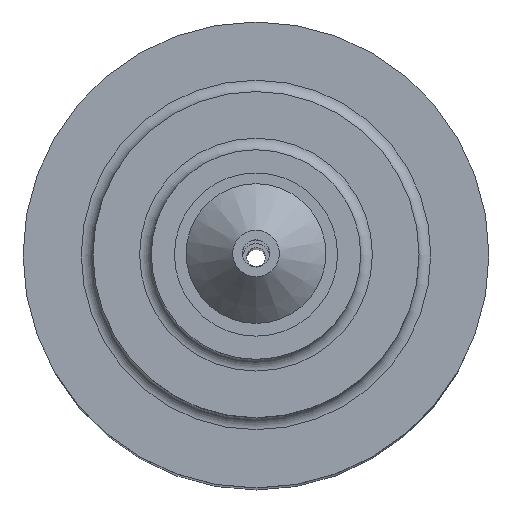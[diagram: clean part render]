
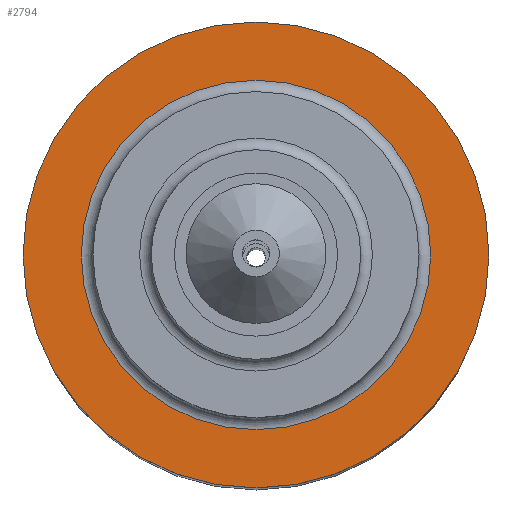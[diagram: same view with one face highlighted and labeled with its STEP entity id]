
A CAD part, top view. The second image highlights one B-rep face of the part: STEP entity #2794.
In plain terms, the highlighted planar face has unit normal (0, 0, 1).
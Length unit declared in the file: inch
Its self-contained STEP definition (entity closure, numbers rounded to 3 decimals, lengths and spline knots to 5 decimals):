
#2743=CARTESIAN_POINT('',(0.46875,0.,1.69));
#2744=VERTEX_POINT('',#2743);
#2745=CARTESIAN_POINT('',(0.0,0.0,1.69));
#2746=DIRECTION('',(0.0,0.0,1.0));
#2747=DIRECTION('',(-1.0,0.0,0.0));
#2748=AXIS2_PLACEMENT_3D('',#2745,#2746,#2747);
#2749=CIRCLE('',#2748,0.46875);
#2750=EDGE_CURVE('',#2744,#2744,#2749,.T.);
#2775=CARTESIAN_POINT('',(0.,0.,1.69));
#2776=DIRECTION('',(0.0,0.0,1.0));
#2777=DIRECTION('',(1.0,0.0,0.0));
#2778=AXIS2_PLACEMENT_3D('',#2775,#2776,#2777);
#2779=PLANE('',#2778);
#2780=CARTESIAN_POINT('',(0.625,0.,1.69));
#2781=VERTEX_POINT('',#2780);
#2782=CARTESIAN_POINT('',(0.0,0.0,1.69));
#2783=DIRECTION('',(0.0,0.0,1.0));
#2784=DIRECTION('',(-1.0,0.0,0.0));
#2785=AXIS2_PLACEMENT_3D('',#2782,#2783,#2784);
#2786=CIRCLE('',#2785,0.625);
#2787=EDGE_CURVE('',#2781,#2781,#2786,.T.);
#2788=ORIENTED_EDGE('',*,*,#2787,.T.);
#2789=EDGE_LOOP('',(#2788));
#2790=FACE_OUTER_BOUND('',#2789,.T.);
#2791=ORIENTED_EDGE('',*,*,#2750,.F.);
#2792=EDGE_LOOP('',(#2791));
#2793=FACE_BOUND('',#2792,.T.);
#2794=ADVANCED_FACE('',(#2790,#2793),#2779,.T.);
